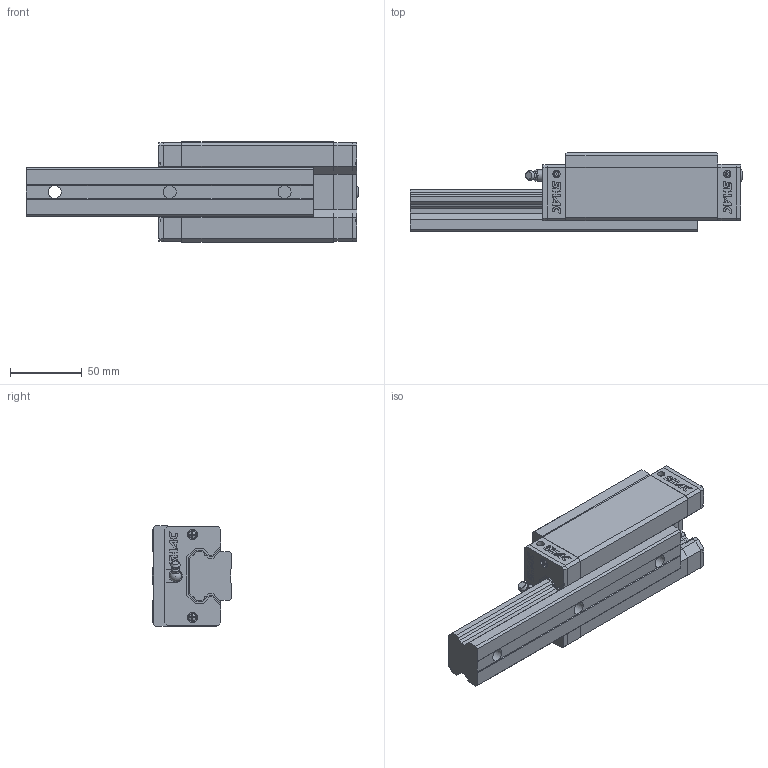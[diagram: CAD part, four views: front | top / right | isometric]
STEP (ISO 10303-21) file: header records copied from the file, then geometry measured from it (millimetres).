
FILE_DESCRIPTION( ( 'STEP AP214' ), '1' );
FILE_NAME( 'F:/品牌/SHAC 台湾鼎翰传动科技有限公司/3D滑块/GHH35HA1R200Z0C-20_20_1_1_.stp', '2025-04-21T22:44:50', ( 'License CC BY-ND 4.0' ), ( 'CADENAS' ), ' ', 'PARTsolutions', ' ' );
FILE_SCHEMA( ( 'AUTOMOTIVE_DESIGN { 1 0 10303 214 1 1 1 1 }' ) );
Length unit declared in the file: millimetre
Products named in the file (8): GHH35HA1R200Z0C-20/20(1_1); _GHR35R200C+RC-20/20(1)_RAIL; _GHH35HA_SLIDER; _GHH35HA_C; _GHH35HA_P; _GH35_SCREW; _GH35_BOLT; _GH35-_G
Assembly tree (12 placements, depth 2):
  GHH35HA1R200Z0C-20/20(1_1)
    _GHR35R200C+RC-20/20(1)_RAIL
    _GHH35HA_SLIDER
    _GHH35HA_C  x2
    _GHH35HA_P  x2
    _GH35_SCREW  x4
    _GH35_BOLT
    _GH35-_G
Bounding box: 231.1 x 55 x 70 mm (x, y, z)
Volume: 510702.7 mm3; surface area: 91816.5 mm2
Topology: 12 solids, 12 shells, 771 faces, 2051 edges, 1354 vertices
Faces by surface type: plane 623, cylinder 108, cone 24, torus 10, sphere 5, bspline 1
Full cylindrical faces by diameter (mm): 0.656 x4, 4.5 x5, 5.1 x4, 5.43 x4, 6 x2, 6.5 x2, 6.647 x4, 6.79 x4, 7 x2, 8 x1, 8.2 x1, 9 x3, 14 x3
Entity records: 17998 total; most frequent: CARTESIAN_POINT 2650, ORIENTED_EDGE 2354, DIRECTION 2281, EDGE_CURVE 1177, LINE 969, VECTOR 969, VERTEX_POINT 805, AXIS2_PLACEMENT_3D 656
